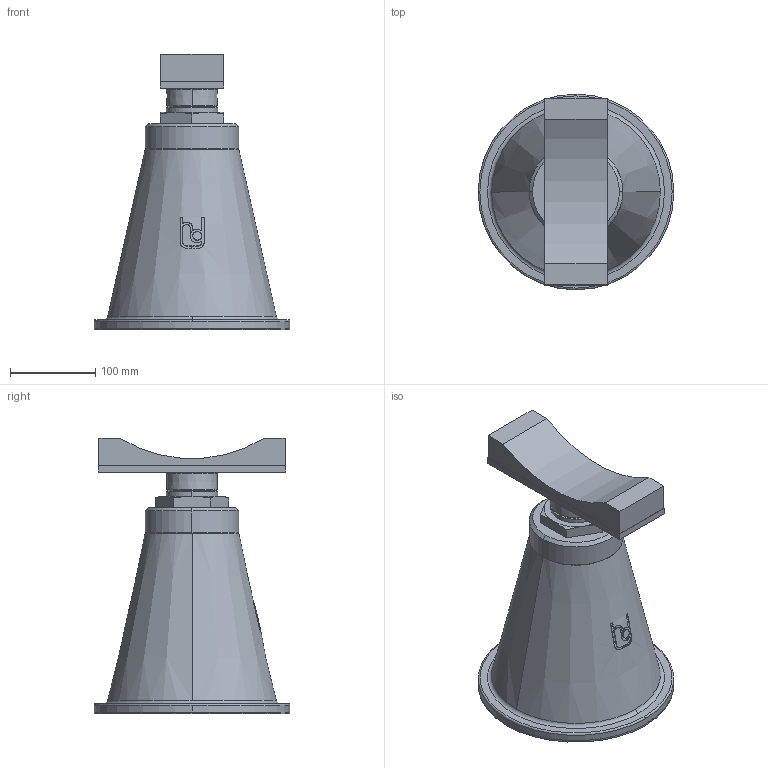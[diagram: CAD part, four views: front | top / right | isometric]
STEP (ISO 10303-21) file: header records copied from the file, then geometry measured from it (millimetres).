
FILE_DESCRIPTION(('STEP AP214'),'1');
FILE_NAME('RSRFA_DN300.stp','2018-06-25T09:55:20',(' '),(' '),'Spatial InterOp 3D',' ',' ');
FILE_SCHEMA(('automotive_design'));
Length unit declared in the file: millimetre
Products named in the file (6): 1; 2; 3; 4; 5; 6
Bounding box: 230 x 230 x 324 mm (x, y, z)
Volume: 5915557.6 mm3; surface area: 426405.1 mm2
Topology: 6 solids, 7 shells, 118 faces, 280 edges, 180 vertices
Faces by surface type: plane 51, cylinder 34, cone 25, torus 8
Entity records: 4854 total; most frequent: CARTESIAN_POINT 1042, DIRECTION 592, ORIENTED_EDGE 560, EDGE_CURVE 280, AXIS2_PLACEMENT_3D 230, VERTEX_POINT 180, LINE 132, VECTOR 132
